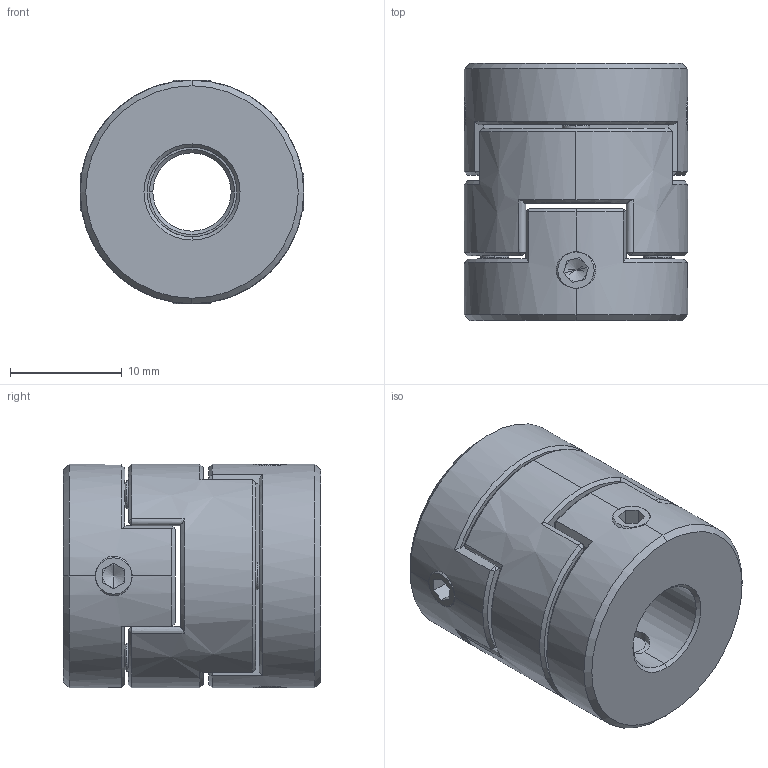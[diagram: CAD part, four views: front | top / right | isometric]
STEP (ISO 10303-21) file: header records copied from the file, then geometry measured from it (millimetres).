
FILE_DESCRIPTION (( 'STEP AP203' ), '1' );
FILE_NAME ('LZ-D-D20L23-7-8.STEP', '2021-10-30T01:46:42', ( '' ), ( '' ), 'SwSTEP 2.0', 'SolidWorks 2018', '' );
FILE_SCHEMA (( 'CONFIG_CONTROL_DESIGN' ));
Length unit declared in the file: millimetre
Products named in the file (1): LZ-D-D20L23-7-8
Bounding box: 20 x 23 x 20 mm (x, y, z)
Volume: 5878.2 mm3; surface area: 4111.6 mm2
Topology: 3 solids, 3 shells, 231 faces, 592 edges, 368 vertices
Faces by surface type: plane 117, cone 54, cylinder 34, bspline 26
Entity records: 9805 total; most frequent: CARTESIAN_POINT 4480, ORIENTED_EDGE 1168, DIRECTION 986, EDGE_CURVE 584, VERTEX_POINT 368, AXIS2_PLACEMENT_3D 360, LINE 266, VECTOR 266
